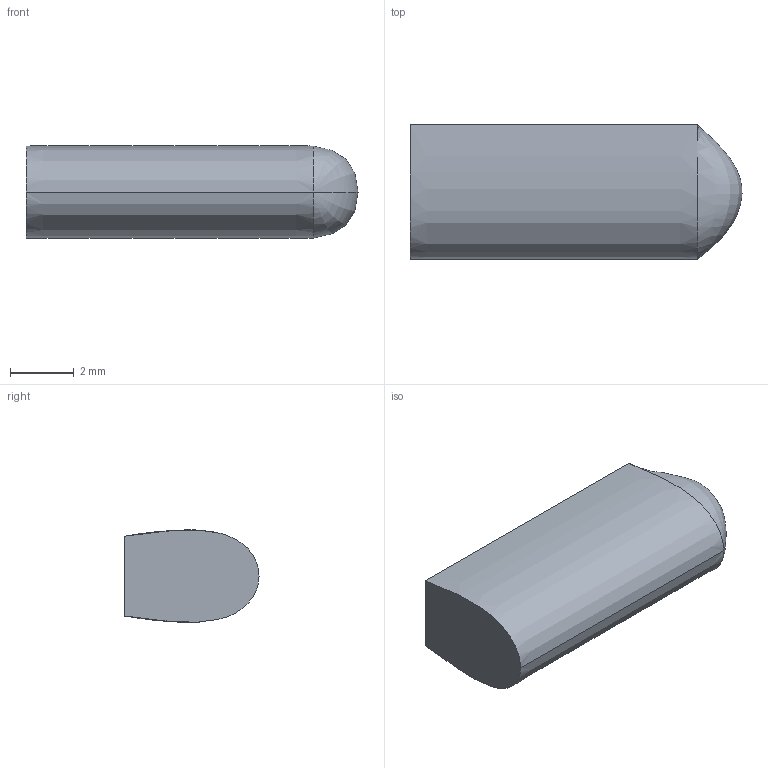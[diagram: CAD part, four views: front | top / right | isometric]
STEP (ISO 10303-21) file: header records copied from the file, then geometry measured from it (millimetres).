
FILE_DESCRIPTION((''),'1');
FILE_NAME('ELEK-ST14-22E','2001-03-29T',('rgoetz'),(''),'PRO/ENGINEER BY PARAMETRIC TECHNOLOGY CORPORATION, 2000350','PRO/ENGINEER BY PARAMETRIC TECHNOLOGY CORPORATION, 2000350','');
FILE_SCHEMA(('CONFIG_CONTROL_DESIGN'));
Length unit declared in the file: millimetre
Products named in the file (1): ELEK-ST14-22E
Bounding box: 10.4 x 4.2 x 2.9 mm (x, y, z)
Volume: 104.7 mm3; surface area: 139.2 mm2
Topology: 1 solids, 1 shells, 6 faces, 13 edges, 7 vertices
Faces by surface type: plane 2, extrusion 2, bspline 2
Entity records: 555 total; most frequent: CARTESIAN_POINT 414, ORIENTED_EDGE 22, EDGE_CURVE 11, DIRECTION 10, B_SPLINE_CURVE_WITH_KNOTS 9, VERTEX_POINT 7, VECTOR 6, EDGE_LOOP 6
